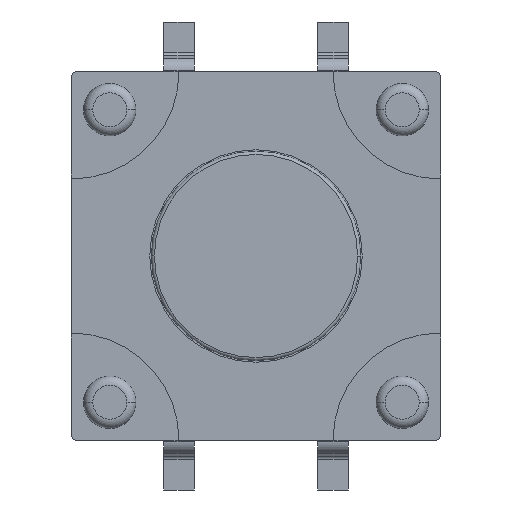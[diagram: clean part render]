
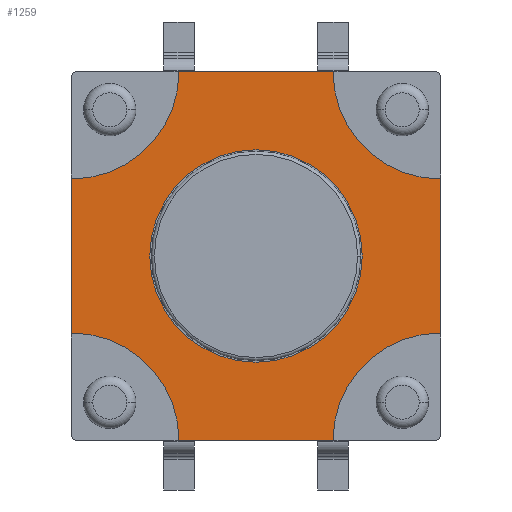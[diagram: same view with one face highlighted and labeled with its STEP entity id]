
A CAD part, front view. The second image highlights one B-rep face of the part: STEP entity #1259.
In plain terms, the highlighted planar face has unit normal (0, -1, 0).
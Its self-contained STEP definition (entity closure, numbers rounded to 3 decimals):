
#290=CARTESIAN_POINT('',(0.,-2.,0.));
#291=DIRECTION('',(0.,-1.,0.));
#292=DIRECTION('',(-1.,0.,0.));
#293=AXIS2_PLACEMENT_3D('',#290,#291,#292);
#298=CARTESIAN_POINT('',(0.,-2.,0.));
#299=DIRECTION('',(0.,-1.,0.));
#300=DIRECTION('',(1.,0.,0.));
#301=AXIS2_PLACEMENT_3D('',#298,#299,#300);
#306=DIRECTION('',(-1.,0.,0.));
#307=VECTOR('',#306,5.);
#308=CARTESIAN_POINT('',(2.5,-2.,-6.));
#309=LINE('',#308,#307);
#313=DIRECTION('',(0.,0.,1.));
#314=VECTOR('',#313,5.);
#315=CARTESIAN_POINT('',(-6.,-2.,-2.5));
#316=LINE('',#315,#314);
#320=DIRECTION('',(1.,0.,0.));
#321=VECTOR('',#320,5.);
#322=CARTESIAN_POINT('',(-2.5,-2.,6.));
#323=LINE('',#322,#321);
#327=DIRECTION('',(0.,0.,-1.));
#328=VECTOR('',#327,5.);
#329=CARTESIAN_POINT('',(6.,-2.,2.5));
#330=LINE('',#329,#328);
#686=CARTESIAN_POINT('',(6.,-2.,-6.));
#687=DIRECTION('',(0.,1.,0.));
#688=DIRECTION('',(-1.,0.,0.));
#689=AXIS2_PLACEMENT_3D('',#686,#687,#688);
#694=CARTESIAN_POINT('',(6.,-2.,6.));
#695=DIRECTION('',(0.,1.,0.));
#696=DIRECTION('',(0.,0.,-1.));
#697=AXIS2_PLACEMENT_3D('',#694,#695,#696);
#702=CARTESIAN_POINT('',(-6.,-2.,6.));
#703=DIRECTION('',(0.,1.,0.));
#704=DIRECTION('',(1.,0.,0.));
#705=AXIS2_PLACEMENT_3D('',#702,#703,#704);
#710=CARTESIAN_POINT('',(-6.,-2.,-6.));
#711=DIRECTION('',(0.,1.,0.));
#712=DIRECTION('',(0.,0.,1.));
#713=AXIS2_PLACEMENT_3D('',#710,#711,#712);
#946=CARTESIAN_POINT('',(-3.45,-2.,0.));
#947=CARTESIAN_POINT('',(3.45,-2.,0.));
#948=VERTEX_POINT('',#946);
#949=VERTEX_POINT('',#947);
#1050=CARTESIAN_POINT('',(2.5,-2.,-6.));
#1051=VERTEX_POINT('',#1050);
#1052=CARTESIAN_POINT('',(6.,-2.,-2.5));
#1053=VERTEX_POINT('',#1052);
#1058=CARTESIAN_POINT('',(-6.,-2.,-2.5));
#1059=VERTEX_POINT('',#1058);
#1060=CARTESIAN_POINT('',(-2.5,-2.,-6.));
#1061=VERTEX_POINT('',#1060);
#1066=CARTESIAN_POINT('',(-2.5,-2.,6.));
#1067=VERTEX_POINT('',#1066);
#1068=CARTESIAN_POINT('',(-6.,-2.,2.5));
#1069=VERTEX_POINT('',#1068);
#1074=CARTESIAN_POINT('',(6.,-2.,2.5));
#1075=VERTEX_POINT('',#1074);
#1076=CARTESIAN_POINT('',(2.5,-2.,6.));
#1077=VERTEX_POINT('',#1076);
#1232=CARTESIAN_POINT('',(0.,-2.,0.));
#1233=DIRECTION('',(0.,1.,0.));
#1234=DIRECTION('',(-1.,0.,0.));
#1235=AXIS2_PLACEMENT_3D('',#1232,#1233,#1234);
#1236=PLANE('',#1235);
#1238=ORIENTED_EDGE('',*,*,#1237,.T.);
#1240=ORIENTED_EDGE('',*,*,#1239,.F.);
#1242=ORIENTED_EDGE('',*,*,#1241,.T.);
#1244=ORIENTED_EDGE('',*,*,#1243,.F.);
#1246=ORIENTED_EDGE('',*,*,#1245,.T.);
#1248=ORIENTED_EDGE('',*,*,#1247,.F.);
#1250=ORIENTED_EDGE('',*,*,#1249,.T.);
#1252=ORIENTED_EDGE('',*,*,#1251,.F.);
#1253=EDGE_LOOP('',(#1238,#1240,#1242,#1244,#1246,#1248,#1250,#1252));
#1254=FACE_OUTER_BOUND('',#1253,.F.);
#1255=ORIENTED_EDGE('',*,*,#1212,.T.);
#1256=ORIENTED_EDGE('',*,*,#1226,.T.);
#1257=EDGE_LOOP('',(#1255,#1256));
#1258=FACE_BOUND('',#1257,.F.);
#294=CIRCLE('',#293,3.45);
#302=CIRCLE('',#301,3.45);
#690=CIRCLE('',#689,3.5);
#698=CIRCLE('',#697,3.5);
#706=CIRCLE('',#705,3.5);
#714=CIRCLE('',#713,3.5);
#1212=EDGE_CURVE('',#948,#949,#294,.T.);
#1226=EDGE_CURVE('',#949,#948,#302,.T.);
#1237=EDGE_CURVE('',#1051,#1061,#309,.T.);
#1239=EDGE_CURVE('',#1059,#1061,#714,.T.);
#1241=EDGE_CURVE('',#1059,#1069,#316,.T.);
#1243=EDGE_CURVE('',#1067,#1069,#706,.T.);
#1245=EDGE_CURVE('',#1067,#1077,#323,.T.);
#1247=EDGE_CURVE('',#1075,#1077,#698,.T.);
#1249=EDGE_CURVE('',#1075,#1053,#330,.T.);
#1251=EDGE_CURVE('',#1051,#1053,#690,.T.);
#1259=ADVANCED_FACE('',(#1254,#1258),#1236,.F.);
